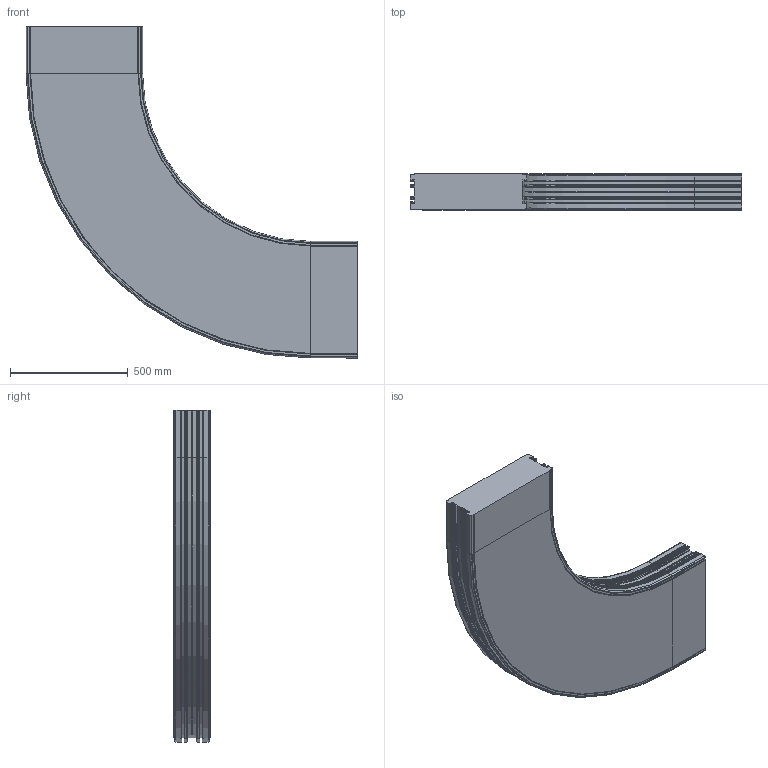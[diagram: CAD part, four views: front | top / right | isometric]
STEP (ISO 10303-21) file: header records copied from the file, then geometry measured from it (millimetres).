
FILE_DESCRIPTION (( 'STEP AP214' ), '1' );
FILE_NAME ('F2-1800-C960-90.STEP', '2016-02-16T13:17:55', ( '' ), ( '' ), 'SwSTEP 2.0', 'SolidWorks 2014', '' );
FILE_SCHEMA (( 'AUTOMOTIVE_DESIGN' ));
Length unit declared in the file: millimetre
Products named in the file (1): F2-1800-C960-90
Bounding box: 1407 x 153.4 x 1407 mm (x, y, z)
Volume: 138757265.3 mm3; surface area: 3360791.7 mm2
Topology: 1 solids, 1 shells, 644 faces, 1498 edges, 856 vertices
Faces by surface type: plane 300, cylinder 244, torus 92, cone 8
Entity records: 17974 total; most frequent: DIRECTION 3370, CARTESIAN_POINT 2999, ORIENTED_EDGE 2996, EDGE_CURVE 1498, AXIS2_PLACEMENT_3D 1227, LINE 916, VECTOR 916, VERTEX_POINT 856
